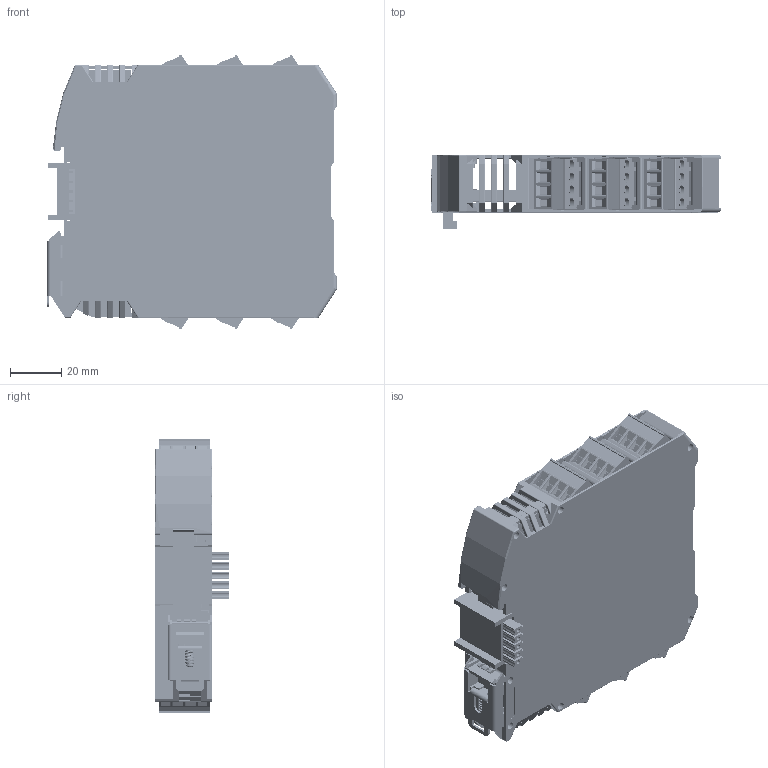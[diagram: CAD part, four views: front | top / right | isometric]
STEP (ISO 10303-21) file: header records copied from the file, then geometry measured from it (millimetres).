
FILE_DESCRIPTION(('STEP AP214'), '1');
FILE_NAME('NLS-485C-5I-ST — êîïèÿ', '', ('UNSPECIFIED'), ('UNSPECIFIED'), 'C3D Converter', 'C3D Toolkit', '');
FILE_SCHEMA(('AUTOMOTIVE_DESIGN { 1 0 10303 214 3 1 1}'));
Length unit declared in the file: millimetre
Bounding box: 113.65 x 29.2 x 107.56 mm (x, y, z)
Volume: 82792.8 mm3; surface area: 103757.6 mm2
Topology: 20 solids, 53 shells, 8780 faces, 24843 edges, 16430 vertices
Faces by surface type: plane 5312, extrusion 2243, cylinder 1167, cone 50, bspline 6, torus 2
Full cylindrical faces by diameter (mm): 0.3 x172, 0.5 x19, 0.6 x3, 0.9 x31, 0.92 x4, 1 x3, 1.4 x28, 1.5 x24, 1.6 x11, 2.2 x6, 2.3 x2, 2.8 x1, 3 x16, 3.796 x24, 4 x24, 4.5 x1
Entity records: 366553 total; most frequent: CARTESIAN_POINT 76837, ORIENTED_EDGE 48946, DIRECTION 37066, EDGE_CURVE 24473, VECTOR 19168, LINE 16925, VERTEX_POINT 16430, EDGE_LOOP 10161
